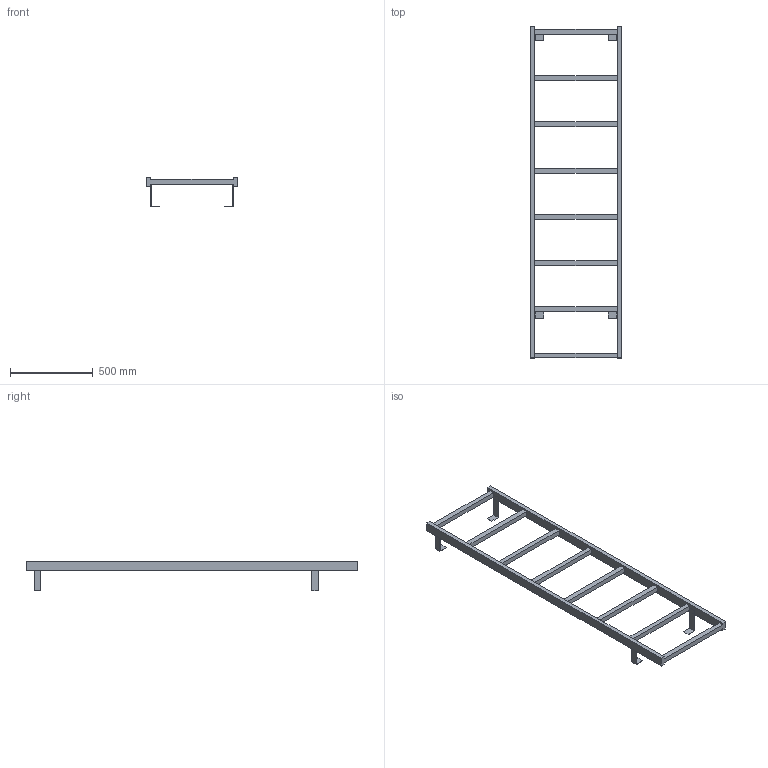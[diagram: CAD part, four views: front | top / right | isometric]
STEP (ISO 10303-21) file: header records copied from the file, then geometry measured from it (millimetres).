
FILE_DESCRIPTION((''),'2;1');
FILE_NAME('52311186','2024-10-17T13:43:03',('wep'),('HUBER SE'),'CREO PARAMETRIC BY PTC INC, 2022162','CREO PARAMETRIC BY PTC INC, 2022162','');
FILE_SCHEMA(('AUTOMOTIVE_DESIGN { 1 0 10303 214 1 1 1 1 }'));
Length unit declared in the file: millimetre
Products named in the file (1): 52311186
Bounding box: 550 x 2010 x 178.5 mm (x, y, z)
Volume: 9393460 mm3; surface area: 1190068 mm2
Topology: 1 solids, 1 shells, 74 faces, 216 edges, 140 vertices
Faces by surface type: plane 74
Entity records: 2981 total; most frequent: CARTESIAN_POINT 432, ORIENTED_EDGE 432, DIRECTION 364, VECTOR 216, LINE 216, EDGE_CURVE 216, VERTEX_POINT 140, COLOUR_RGB 106
